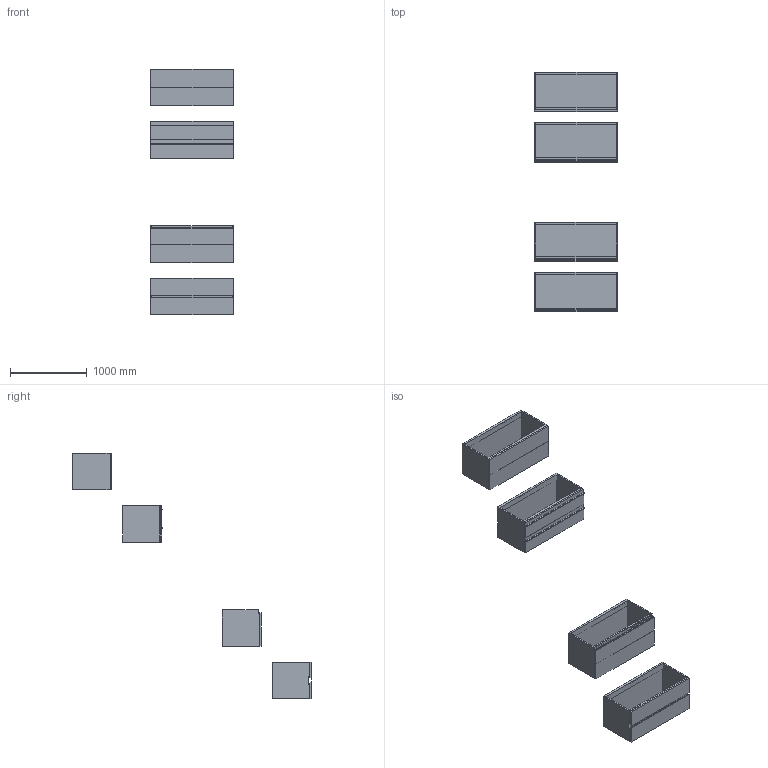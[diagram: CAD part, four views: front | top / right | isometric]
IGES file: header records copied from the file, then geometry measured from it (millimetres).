
Start section: Data from Parasolid IGES Translator 19.0.9, Copyright(c) 2006 Siemens PL M Software. All Rights Reserved.
Global section: file name: noorth-SI-H 48 D 51 W 108_8536.igs; native system: By Siemens PLM Incorporated; preprocessor: XPlus GENERIC/IGES 19.0.9; author: Noname; organization: Noname; date: 20200601.113814; units: metre
Bounding box: 1080 x 3107.1 x 3200.01 mm (x, y, z)
Volume: 117552030.4 mm3; surface area: 18263151.9 mm2
Topology: 37 solids, 37 shells, 342 faces, 748 edges, 460 vertices
Faces by surface type: plane 254, extrusion 36, bspline 32, cylinder 20
